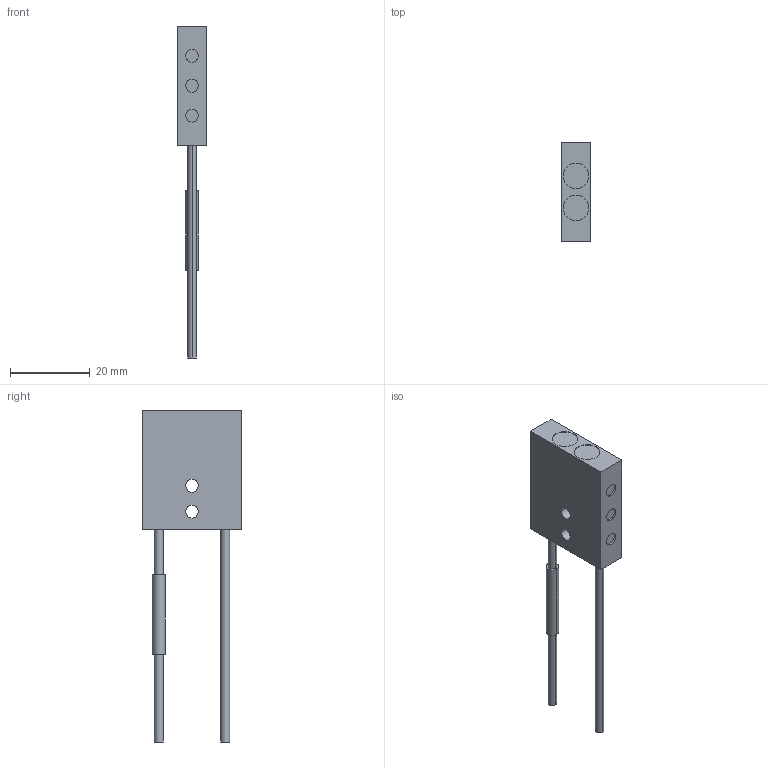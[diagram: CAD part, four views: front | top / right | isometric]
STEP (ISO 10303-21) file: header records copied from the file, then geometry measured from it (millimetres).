
FILE_DESCRIPTION (( 'STEP AP203' ), '1' );
FILE_NAME ('FD-L46.STEP', '2005-09-04T10:08:16', ( '川島良英' ), ( ' ' ), 'SwSTEP 2.0', 'SolidWorks 2004251', '' );
FILE_SCHEMA (( 'CONFIG_CONTROL_DESIGN' ));
Length unit declared in the file: millimetre
Products named in the file (1): FD-L46
Bounding box: 7.3 x 25 x 83.3 mm (x, y, z)
Volume: 5797.3 mm3; surface area: 3249.2 mm2
Topology: 1 solids, 1 shells, 50 faces, 104 edges, 68 vertices
Faces by surface type: cylinder 28, plane 18, cone 4
Entity records: 1441 total; most frequent: DIRECTION 266, CARTESIAN_POINT 223, ORIENTED_EDGE 208, AXIS2_PLACEMENT_3D 111, EDGE_CURVE 104, VERTEX_POINT 68, EDGE_LOOP 66, CIRCLE 60
